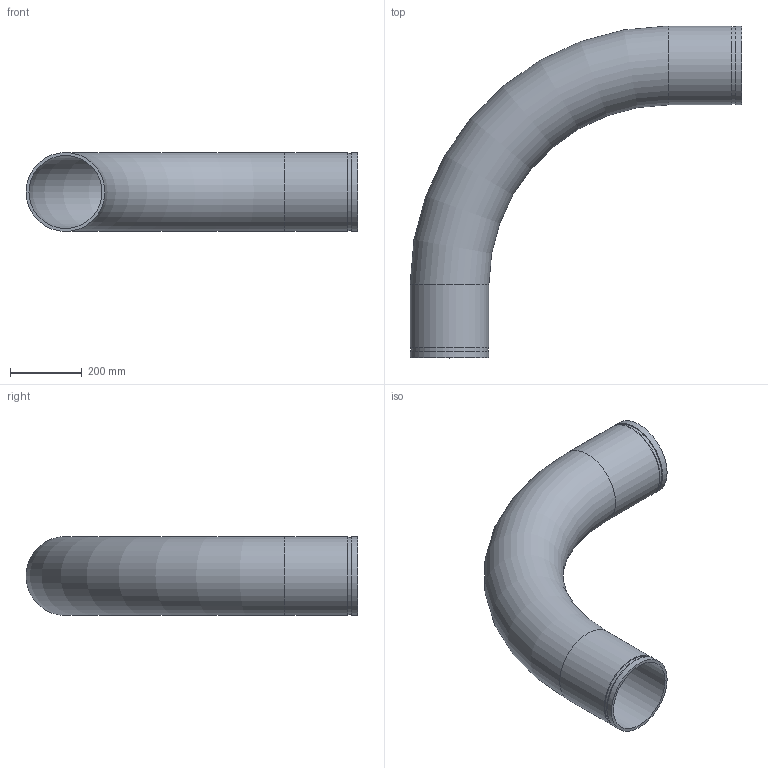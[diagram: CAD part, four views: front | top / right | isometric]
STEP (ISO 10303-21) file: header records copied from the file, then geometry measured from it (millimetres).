
FILE_DESCRIPTION(/* description */ ('VIC ENDSEAL 90 DEG 3D ELBOW No 100-3D','CAx-IF Rec.Pracs.---Representation and Presentation of Product Manufacturing Information (PMI)---4.0---2014-10-13'),/* implementation_level */ '2;1');
FILE_NAME(/* name */ 'C:\Users\kkamble\AppData\Roaming\Autodesk\ApplicationPlugins\Back Up\Victaulic-ES-Long Radius Elbow No 100_3D\Victaulic-ES-Long Radius Elbow No 100_3D_8 (200).stp',/* time_stamp */ '2020-03-13T11:16:58+06:00',/* author */ ('CORINNE GRAY'),/* organization */ ('Victaulic'),/* preprocessor_version */ 'ST-DEVELOPER v17.2',/* originating_system */ 'Autodesk Inventor 2019',/* authorisation */ '');
FILE_SCHEMA (('AP242_MANAGED_MODEL_BASED_3D_ENGINEERING_MIM_LF { 1 0 10303 442 1 1 4 }'));
Length unit declared in the file: inch
Products named in the file (1): No.100-3D-08.0
Bounding box: 922.34 x 922.34 x 219.07 mm (x, y, z)
Volume: 7358767.4 mm3; surface area: 1824283.8 mm2
Topology: 1 solids, 1 shells, 16 faces, 34 edges, 24 vertices
Faces by surface type: cylinder 8, plane 6, torus 2
Full cylindrical faces by diameter (mm): 202.717 x2, 214.401 x2, 219.075 x4
Entity records: 608 total; most frequent: DIRECTION 120, CARTESIAN_POINT 92, ORIENTED_EDGE 68, AXIS2_PLACEMENT_3D 56, EDGE_CURVE 34, CIRCLE 26, VERTEX_POINT 24, EDGE_LOOP 22
